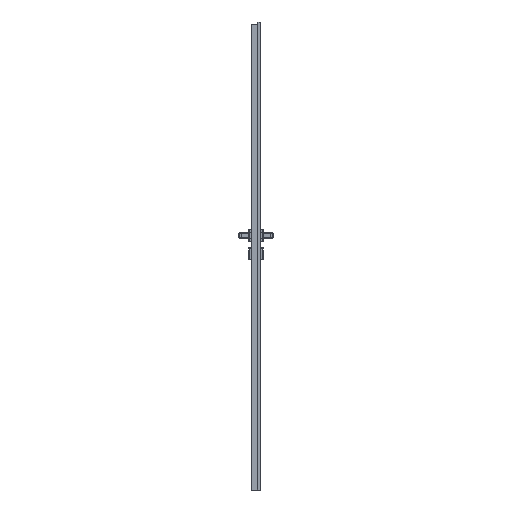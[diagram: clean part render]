
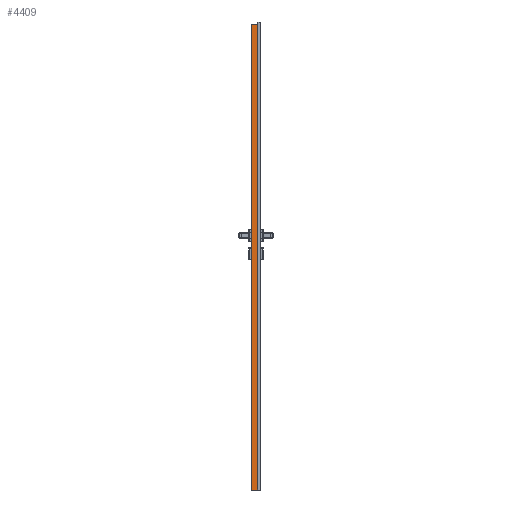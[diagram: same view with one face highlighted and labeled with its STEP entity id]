
A CAD part, left-side view. The second image highlights one B-rep face of the part: STEP entity #4409.
In plain terms, the highlighted planar face has unit normal (-1, 0, 0).
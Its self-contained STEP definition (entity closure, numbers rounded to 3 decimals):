
#2540=FACE_OUTER_BOUND('',#8559,.T.);
#4409=ADVANCED_FACE('',(#2540),#5842,.F.);
#5842=PLANE('',#33839);
#6997=CIRCLE('',#33838,1.48);
#8559=EDGE_LOOP('',(#13175,#13176,#13177,#13178,#13179));
#13175=ORIENTED_EDGE('',*,*,#23881,.F.);
#13176=ORIENTED_EDGE('',*,*,#23882,.T.);
#13177=ORIENTED_EDGE('',*,*,#23883,.T.);
#13178=ORIENTED_EDGE('',*,*,#23879,.F.);
#13179=ORIENTED_EDGE('',*,*,#23653,.T.);
#20104=VERTEX_POINT('',#53751);
#20105=VERTEX_POINT('',#53753);
#20264=VERTEX_POINT('',#54301);
#20265=VERTEX_POINT('',#54305);
#20266=VERTEX_POINT('',#54307);
#23653=EDGE_CURVE('',#20105,#20104,#27586,.T.);
#23879=EDGE_CURVE('',#20105,#20264,#27732,.T.);
#23881=EDGE_CURVE('',#20265,#20104,#27733,.T.);
#23882=EDGE_CURVE('',#20265,#20266,#6997,.T.);
#23883=EDGE_CURVE('',#20266,#20264,#27734,.T.);
#27586=LINE('',#53752,#30526);
#27732=LINE('',#54300,#30672);
#27733=LINE('',#54304,#30673);
#27734=LINE('',#54308,#30674);
#30526=VECTOR('',#38750,1.);
#30672=VECTOR('',#39138,1.);
#30673=VECTOR('',#39143,1.);
#30674=VECTOR('',#39146,1.);
#33838=AXIS2_PLACEMENT_3D('',#54306,#39144,#39145);
#33839=AXIS2_PLACEMENT_3D('',#54309,#39147,#39148);
#38750=DIRECTION('',(0.,-1.,0.));
#39138=DIRECTION('',(0.,0.,1.));
#39143=DIRECTION('',(0.,0.,-1.));
#39144=DIRECTION('',(1.,0.,0.));
#39145=DIRECTION('',(0.,0.,1.));
#39146=DIRECTION('',(0.,1.,0.));
#39147=DIRECTION('',(1.,0.,0.));
#39148=DIRECTION('',(0.,0.,-1.));
#53751=CARTESIAN_POINT('',(-309.,-24.65,0.));
#53752=CARTESIAN_POINT('',(-309.,-24.65,0.));
#53753=CARTESIAN_POINT('',(-309.,-1.65,0.));
#54300=CARTESIAN_POINT('',(-309.,-1.65,0.));
#54301=CARTESIAN_POINT('',(-309.,-1.65,2017.02));
#54304=CARTESIAN_POINT('',(-309.,-24.65,0.));
#54305=CARTESIAN_POINT('',(-309.,-24.649,2017.074));
#54306=CARTESIAN_POINT('',(-309.,-24.2,2018.5));
#54307=CARTESIAN_POINT('',(-309.,-24.2,2017.02));
#54308=CARTESIAN_POINT('',(-309.,0.,2017.02));
#54309=CARTESIAN_POINT('',(-309.,-24.65,0.));
